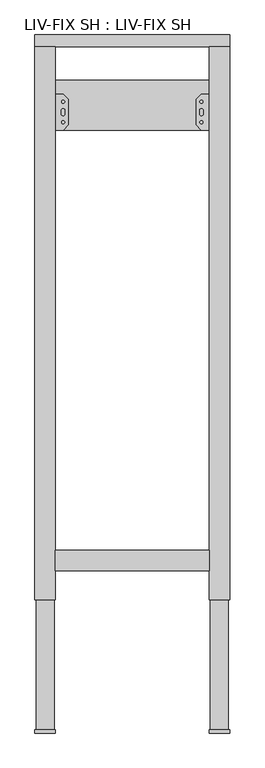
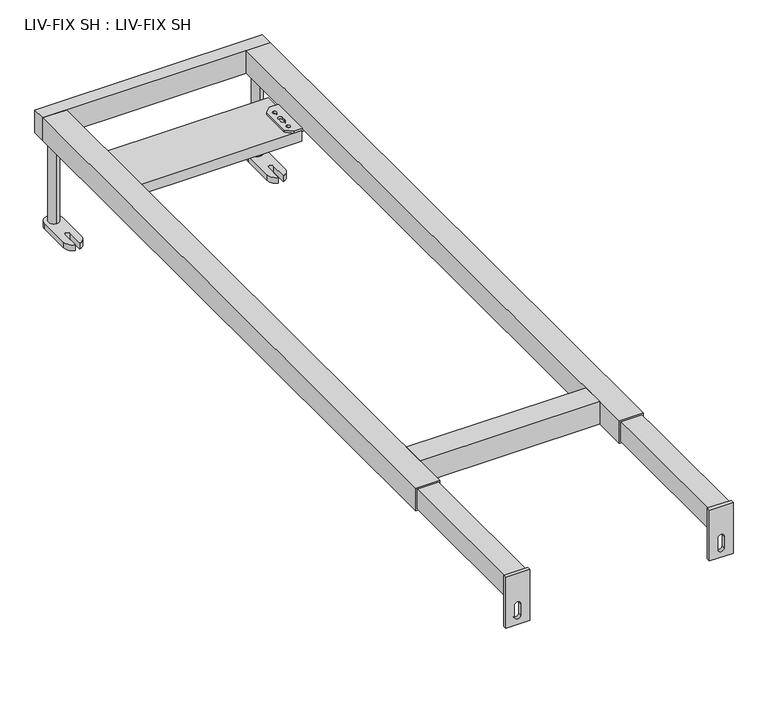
"""IFC4 building model written with IfcOpenShell, lengths in millimetres: flow terminal geometry, LIV-FIX SH : LIV-FIX SH."""

from ifc_helpers import new_model, si_unit, point, frame, frame_2d, origin, origin_with_axes, place, context, project, spatial, polyline, circle_curve, trimmed, segment, composite_curve, outline, extrude, source, transform, mapped, element, save


def liv_fix_sh_liv_fix_sh_7cc6f4fb(model_context):
    return source(origin(), model_context, "Body", "SweptSolid", [
        extrude(outline(polyline([(149.0000009, 976.9813845), (-149.0000054, 976.9813845), (-149.0000054, 1073.9813504), (149.0000009, 1073.9813504), (149.0000009, 976.9813845)])), frame((0.0, 0.0, 139.2500017), z_axis=(0.0, 0.0, 1.0), x_axis=(1.0, 0.0, 0.0)), (0.0, 0.0, 1.0), 17.9999982),
        extrude(outline(polyline([(134.9999833, 976.9813996), (124.9999833, 986.9813996), (124.9999833, 1036.9813996), (134.9999833, 1046.9813996), (184.9999833, 1046.9813996), (184.9999833, 976.9813996), (134.9999833, 976.9813996)]), holes=[composite_curve([segment(trimmed(circle_curve(frame_2d((169.9999833, 1011.9813996)), 4.5), [point((169.9999833, 1007.4813996))], [point((169.9999833, 1016.4813996))], True, "CARTESIAN"), True, "CONTINUOUS"), segment(trimmed(circle_curve(frame_2d((169.9999833, 1011.9813996)), 4.5), [point((169.9999833, 1016.4813996))], [point((169.9999833, 1007.4813996))], True, "CARTESIAN"), True, "CONTINUOUS")], self_intersect=False), composite_curve([segment(trimmed(circle_curve(frame_2d((169.9999833, 1031.9813996)), 4.5), [point((169.9999833, 1027.4813996))], [point((169.9999833, 1036.4813996))], True, "CARTESIAN"), True, "CONTINUOUS"), segment(trimmed(circle_curve(frame_2d((169.9999833, 1031.9813996)), 4.5), [point((169.9999833, 1036.4813996))], [point((169.9999833, 1027.4813996))], True, "CARTESIAN"), True, "CONTINUOUS")], self_intersect=False), composite_curve([segment(trimmed(circle_curve(frame_2d((169.9999833, 991.9813996)), 4.5), [point((169.9999833, 987.4813996))], [point((169.9999833, 996.4813996))], True, "CARTESIAN"), True, "CONTINUOUS"), segment(trimmed(circle_curve(frame_2d((169.9999833, 991.9813996)), 4.5), [point((169.9999833, 996.4813996))], [point((169.9999833, 987.4813996))], True, "CARTESIAN"), True, "CONTINUOUS")], self_intersect=False), composite_curve([segment(trimmed(circle_curve(frame_2d((134.9999833, 1031.9813996)), 2.9795218), [point((134.9999833, 1029.0018778))], [point((134.9999833, 1034.9609213))], True, "CARTESIAN"), True, "CONTINUOUS"), segment(trimmed(circle_curve(frame_2d((134.9999833, 1031.9813996)), 2.9795218), [point((134.9999833, 1034.9609213))], [point((134.9999833, 1029.0018778))], True, "CARTESIAN"), True, "CONTINUOUS")], self_intersect=False), composite_curve([segment(trimmed(circle_curve(frame_2d((134.9999833, 991.9813996)), 2.9795218), [point((134.9999833, 989.0018778))], [point((134.9999833, 994.9609213))], True, "CARTESIAN"), True, "CONTINUOUS"), segment(trimmed(circle_curve(frame_2d((134.9999833, 991.9813996)), 2.9795218), [point((134.9999833, 994.9609213))], [point((134.9999833, 989.0018778))], True, "CARTESIAN"), True, "CONTINUOUS")], self_intersect=False), composite_curve([segment(trimmed(circle_curve(frame_2d((134.9999833, 1015.4813996)), 3.5), [point((138.4999833, 1015.4813996))], [point((131.4999833, 1015.4813996))], True, "CARTESIAN"), True, "CONTINUOUS"), segment(polyline([(131.4999833, 1015.4813996), (131.4999833, 1008.4813996)]), True, "CONTINUOUS"), segment(trimmed(circle_curve(frame_2d((134.9999833, 1008.4813996)), 3.5), [point((131.4999833, 1008.4813996))], [point((138.4999833, 1008.4813996))], True, "CARTESIAN"), True, "CONTINUOUS"), segment(polyline([(138.4999833, 1008.4813996), (138.4999833, 1015.4813996)]), True, "CONTINUOUS")], self_intersect=False)]), frame((0.0, 0.0, 156.0), z_axis=(0.0, 0.0, 1.0), x_axis=(1.0, 0.0, 0.0)), (0.0, 0.0, 1.0), 5.2499988),
        extrude(outline(polyline([(-135.0000032, 976.9813559), (-185.0000032, 976.9813559), (-185.0000032, 1046.9813559), (-135.0000032, 1046.9813559), (-125.0000032, 1036.9813559), (-125.0000032, 986.9813559), (-135.0000032, 976.9813559)]), holes=[composite_curve([segment(trimmed(circle_curve(frame_2d((-170.0000032, 1011.9813559)), 4.5), [point((-170.0000032, 1007.4813559))], [point((-170.0000032, 1016.4813559))], True, "CARTESIAN"), True, "CONTINUOUS"), segment(trimmed(circle_curve(frame_2d((-170.0000032, 1011.9813559)), 4.5), [point((-170.0000032, 1016.4813559))], [point((-170.0000032, 1007.4813559))], True, "CARTESIAN"), True, "CONTINUOUS")], self_intersect=False), composite_curve([segment(trimmed(circle_curve(frame_2d((-170.0000032, 1031.9813559)), 4.5), [point((-170.0000032, 1027.4813559))], [point((-170.0000032, 1036.4813559))], True, "CARTESIAN"), True, "CONTINUOUS"), segment(trimmed(circle_curve(frame_2d((-170.0000032, 1031.9813559)), 4.5), [point((-170.0000032, 1036.4813559))], [point((-170.0000032, 1027.4813559))], True, "CARTESIAN"), True, "CONTINUOUS")], self_intersect=False), composite_curve([segment(trimmed(circle_curve(frame_2d((-170.0000032, 991.9813559)), 4.5), [point((-170.0000032, 987.4813559))], [point((-170.0000032, 996.4813559))], True, "CARTESIAN"), True, "CONTINUOUS"), segment(trimmed(circle_curve(frame_2d((-170.0000032, 991.9813559)), 4.5), [point((-170.0000032, 996.4813559))], [point((-170.0000032, 987.4813559))], True, "CARTESIAN"), True, "CONTINUOUS")], self_intersect=False), composite_curve([segment(trimmed(circle_curve(frame_2d((-135.0000032, 1031.9813559)), 2.9795218), [point((-135.0000032, 1029.0018341))], [point((-135.0000032, 1034.9608777))], True, "CARTESIAN"), True, "CONTINUOUS"), segment(trimmed(circle_curve(frame_2d((-135.0000032, 1031.9813559)), 2.9795218), [point((-135.0000032, 1034.9608777))], [point((-135.0000032, 1029.0018341))], True, "CARTESIAN"), True, "CONTINUOUS")], self_intersect=False), composite_curve([segment(trimmed(circle_curve(frame_2d((-135.0000032, 991.9813559)), 2.9795218), [point((-135.0000032, 989.0018341))], [point((-135.0000032, 994.9608777))], True, "CARTESIAN"), True, "CONTINUOUS"), segment(trimmed(circle_curve(frame_2d((-135.0000032, 991.9813559)), 2.9795218), [point((-135.0000032, 994.9608777))], [point((-135.0000032, 989.0018341))], True, "CARTESIAN"), True, "CONTINUOUS")], self_intersect=False), composite_curve([segment(polyline([(-138.5000032, 1015.4813559), (-138.5000032, 1008.4813559)]), True, "CONTINUOUS"), segment(trimmed(circle_curve(frame_2d((-135.0000032, 1008.4813559)), 3.5), [point((-138.5000032, 1008.4813559))], [point((-131.5000032, 1008.4813559))], True, "CARTESIAN"), True, "CONTINUOUS"), segment(polyline([(-131.5000032, 1008.4813559), (-131.5000032, 1015.4813559)]), True, "CONTINUOUS"), segment(trimmed(circle_curve(frame_2d((-135.0000032, 1015.4813559)), 3.5), [point((-131.5000032, 1015.4813559))], [point((-138.5000032, 1015.4813559))], True, "CARTESIAN"), True, "CONTINUOUS")], self_intersect=False)]), frame((0.0, 0.0, 156.0), z_axis=(0.0, 0.0, 1.0), x_axis=(1.0, 0.0, 0.0)), (0.0, 0.0, 1.0), 5.2499988),
        extrude(outline(composite_curve([segment(trimmed(circle_curve(frame_2d((-170.0, 1142.6893805)), 8.75), [point((-170.0, 1133.9393805))], [point((-170.0, 1151.4393805))], False, "CARTESIAN"), True, "CONTINUOUS"), segment(trimmed(circle_curve(frame_2d((-170.0, 1142.6893805)), 8.75), [point((-170.0, 1151.4393805))], [point((-170.0, 1133.9393805))], False, "CARTESIAN"), True, "CONTINUOUS")], self_intersect=False)), frame((0.0, 0.0, 10.0), z_axis=(0.0, 0.0, 1.0), x_axis=(1.0, 0.0, 0.0)), (0.0, 0.0, 1.0), 150.0),
        extrude(outline(composite_curve([segment(trimmed(circle_curve(frame_2d((170.0, 1142.6893805)), 8.75), [point((170.0, 1133.9393805))], [point((170.0, 1151.4393805))], False, "CARTESIAN"), True, "CONTINUOUS"), segment(trimmed(circle_curve(frame_2d((170.0, 1142.6893805)), 8.75), [point((170.0, 1151.4393805))], [point((170.0, 1133.9393805))], False, "CARTESIAN"), True, "CONTINUOUS")], self_intersect=False)), frame((0.0, 0.0, 10.0), z_axis=(0.0, 0.0, 1.0), x_axis=(1.0, 0.0, 0.0)), (0.0, 0.0, 1.0), 150.0),
        extrude(outline(composite_curve([segment(trimmed(circle_curve(frame_2d((-170.0, 1142.6893805)), 15.0), [point((-185.0, 1142.6893805))], [point((-155.0, 1142.6893805))], False, "CARTESIAN"), True, "CONTINUOUS"), segment(polyline([(-155.0, 1142.6893805), (-155.0, 1088.6893805)]), True, "CONTINUOUS"), segment(trimmed(circle_curve(frame_2d((-170.0, 1088.6893805)), 15.0), [point((-155.0, 1088.6893805))], [point((-166.0, 1074.2325482))], False, "CARTESIAN"), True, "CONTINUOUS"), segment(polyline([(-166.0, 1074.2325482), (-166.0, 1103.1462128)]), True, "CONTINUOUS"), segment(trimmed(circle_curve(frame_2d((-170.0, 1103.1462128)), 4.0), [point((-166.0, 1103.1462128))], [point((-174.0, 1103.1462128))], True, "CARTESIAN"), True, "CONTINUOUS"), segment(polyline([(-174.0, 1103.1462128), (-174.0, 1074.2325482)]), True, "CONTINUOUS"), segment(trimmed(circle_curve(frame_2d((-170.0, 1088.6893805)), 15.0), [point((-174.0, 1074.2325482))], [point((-185.0, 1088.6893805))], False, "CARTESIAN"), True, "CONTINUOUS"), segment(polyline([(-185.0, 1088.6893805), (-185.0, 1142.6893805)]), True, "CONTINUOUS")], self_intersect=False)), origin_with_axes(), (0.0, 0.0, 1.0), 10.0),
        extrude(outline(composite_curve([segment(polyline([(185.0, 1142.6893805), (185.0, 1088.6893805)]), True, "CONTINUOUS"), segment(trimmed(circle_curve(frame_2d((170.0, 1088.6893805)), 15.0), [point((185.0, 1088.6893805))], [point((174.0, 1074.2325482))], False, "CARTESIAN"), True, "CONTINUOUS"), segment(polyline([(174.0, 1074.2325482), (174.0, 1103.1462128)]), True, "CONTINUOUS"), segment(trimmed(circle_curve(frame_2d((170.0, 1103.1462128)), 4.0), [point((174.0, 1103.1462128))], [point((166.0, 1103.1462128))], True, "CARTESIAN"), True, "CONTINUOUS"), segment(polyline([(166.0, 1103.1462128), (166.0, 1074.2325482)]), True, "CONTINUOUS"), segment(trimmed(circle_curve(frame_2d((170.0, 1088.6893805)), 15.0), [point((166.0, 1074.2325482))], [point((155.0, 1088.6893805))], False, "CARTESIAN"), True, "CONTINUOUS"), segment(polyline([(155.0, 1088.6893805), (155.0, 1142.6893805)]), True, "CONTINUOUS"), segment(trimmed(circle_curve(frame_2d((170.0, 1142.6893805)), 15.0), [point((155.0, 1142.6893805))], [point((185.0, 1142.6893805))], False, "CARTESIAN"), True, "CONTINUOUS")], self_intersect=False)), origin_with_axes(), (0.0, 0.0, 1.0), 10.0),
        extrude(outline(polyline([(-187.5, 434.9814007), (-152.5, 434.9814007), (-152.5, -194.0), (-187.5, -194.0), (-187.5, 434.9814007)])), frame((0.0, 0.0, 162.5), z_axis=(0.0, 0.0, 1.0), x_axis=(1.0, 0.0, 0.0)), (0.0, 0.0, 1.0), 35.0),
        extrude(outline(polyline([(152.4841074, 434.9814007), (187.4841074, 434.9814007), (187.4841074, -194.0), (152.4841074, -194.0), (152.4841074, 434.9814007)])), frame((0.0, 0.0, 162.5), z_axis=(0.0, 0.0, 1.0), x_axis=(1.0, 0.0, 0.0)), (0.0, 0.0, 1.0), 35.0),
        extrude(outline(polyline([(200.0, 190.0), (200.0, 150.0), (110.0, 150.0), (110.0, 190.0), (200.0, 190.0)]), holes=[composite_curve([segment(trimmed(circle_curve(frame_2d((145.0, 170.0)), 5.0), [point((145.0, 165.0))], [point((145.0, 175.0))], True, "CARTESIAN"), True, "CONTINUOUS"), segment(polyline([(145.0, 175.0), (125.0, 175.0)]), True, "CONTINUOUS"), segment(trimmed(circle_curve(frame_2d((125.0, 170.0)), 5.0), [point((125.0, 175.0))], [point((125.0, 165.0))], True, "CARTESIAN"), True, "CONTINUOUS"), segment(polyline([(125.0, 165.0), (145.0, 165.0)]), True, "CONTINUOUS")], self_intersect=False)]), frame((0.0, -200.0, 0.0), z_axis=(0.0, 1.0, 0.0), x_axis=(0.0, 0.0, 1.0)), (0.0, 0.0, 1.0), 6.0),
        extrude(outline(polyline([(200.0, -150.0), (200.0, -190.0), (110.0, -190.0), (110.0, -150.0), (200.0, -150.0)]), holes=[composite_curve([segment(trimmed(circle_curve(frame_2d((145.0, -170.0)), 5.0), [point((145.0, -175.0))], [point((145.0, -165.0))], True, "CARTESIAN"), True, "CONTINUOUS"), segment(polyline([(145.0, -165.0), (125.0, -165.0)]), True, "CONTINUOUS"), segment(trimmed(circle_curve(frame_2d((125.0, -170.0)), 5.0), [point((125.0, -165.0))], [point((125.0, -175.0))], True, "CARTESIAN"), True, "CONTINUOUS"), segment(polyline([(125.0, -175.0), (145.0, -175.0)]), True, "CONTINUOUS")], self_intersect=False)]), frame((0.0, -200.0, 0.0), z_axis=(0.0, 1.0, 0.0), x_axis=(0.0, 0.0, 1.0)), (0.0, 0.0, 1.0), 6.0),
        extrude(outline(polyline([(150.0, 157.0), (150.0, 117.0), (-150.0, 117.0), (-150.0, 157.0), (150.0, 157.0)])), frame((0.0, 0.0, 160.0), z_axis=(0.0, 0.0, 1.0), x_axis=(1.0, 0.0, 0.0)), (0.0, 0.0, 1.0), 40.0),
        extrude(outline(polyline([(-150.0, 60.0), (-190.0, 60.0), (-190.0, 1140.0), (-150.0, 1140.0), (-150.0, 60.0)])), frame((0.0, 0.0, 160.0), z_axis=(0.0, 0.0, 1.0), x_axis=(1.0, 0.0, 0.0)), (0.0, 0.0, 1.0), 40.0),
        extrude(outline(polyline([(190.0, 60.0), (150.0, 60.0), (150.0, 1140.0), (190.0, 1140.0), (190.0, 60.0)])), frame((0.0, 0.0, 160.0), z_axis=(0.0, 0.0, 1.0), x_axis=(1.0, 0.0, 0.0)), (0.0, 0.0, 1.0), 40.0),
        extrude(outline(polyline([(190.0, 1162.6893805), (190.0, 1140.0), (-190.0, 1140.0), (-190.0, 1162.6893805), (190.0, 1162.6893805)])), frame((0.0, 0.0, 160.0), z_axis=(0.0, 0.0, 1.0), x_axis=(1.0, 0.0, 0.0)), (0.0, 0.0, 1.0), 40.0),
    ])


if __name__ == "__main__":
    model = new_model("IFC4")
    model_context = context("Model", 3, world=origin())
    ifc_project = project(units=[si_unit("LENGTHUNIT", "METRE", prefix="MILLI")], contexts=[model_context])
    site = spatial("IfcSite", under=ifc_project)
    building = spatial("IfcBuilding", under=site)
    placement = place(None, origin())
    liv_fix_sh_liv_fix_sh_shape = liv_fix_sh_liv_fix_sh_7cc6f4fb(model_context)
    element("IfcFlowTerminal", 1, ObjectType="LIV-FIX SH : LIV-FIX SH", at=placement, inside=building, context=model_context, shape_type="MappedRepresentation", body=[
        mapped(liv_fix_sh_liv_fix_sh_shape, transform((0.0, 0.0, 0.0), x_axis=(1.0, 0.0, 0.0), y_axis=(0.0, 1.0, 0.0), z_axis=(0.0, 0.0, 1.0))),
    ])
    save(model, "model.ifc")
